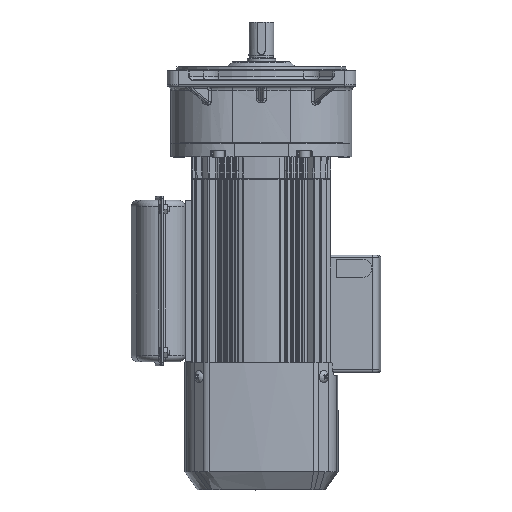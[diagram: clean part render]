
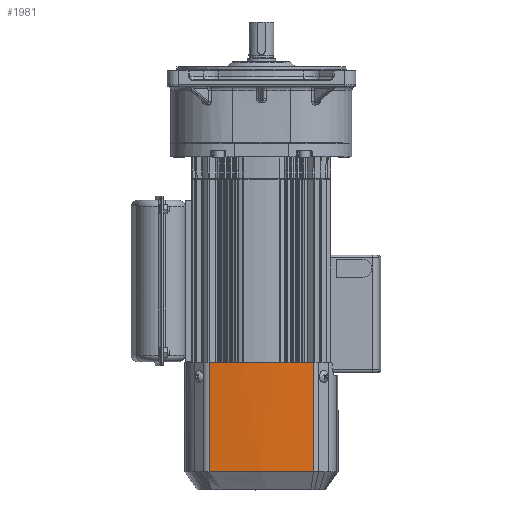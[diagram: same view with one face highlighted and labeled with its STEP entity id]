
A CAD part, top view. The second image highlights one B-rep face of the part: STEP entity #1981.
In plain terms, the highlighted cylindrical face has radius 400.6 mm (diameter 801.2 mm), a partial arc.
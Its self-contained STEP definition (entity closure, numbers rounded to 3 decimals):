
#1981 = ADVANCED_FACE( '', ( #5805 ), #5806, .T. );
#5805 = FACE_OUTER_BOUND( '', #11939, .T. );
#5806 = CYLINDRICAL_SURFACE( '', #11940, 400.6 );
#11939 = EDGE_LOOP( '', ( #26646, #26647, #26648, #26649 ) );
#11940 = AXIS2_PLACEMENT_3D( '', #26650, #26651, #26652 );
#26646 = ORIENTED_EDGE( '', *, *, #43182, .F. );
#26647 = ORIENTED_EDGE( '', *, *, #43183, .F. );
#26648 = ORIENTED_EDGE( '', *, *, #43184, .T. );
#26649 = ORIENTED_EDGE( '', *, *, #43185, .T. );
#26650 = CARTESIAN_POINT( '', ( 87.385, -106.725, -283.31 ) );
#26651 = DIRECTION( '', ( 0., 1., 0. ) );
#26652 = DIRECTION( '', ( 0., 0., -1. ) );
#43182 = EDGE_CURVE( '', #49744, #49745, #49746, .T. );
#43183 = EDGE_CURVE( '', #49747, #49744, #49748, .T. );
#43184 = EDGE_CURVE( '', #49747, #49749, #49750, .T. );
#43185 = EDGE_CURVE( '', #49749, #49745, #49751, .T. );
#49744 = VERTEX_POINT( '', #59506 );
#49745 = VERTEX_POINT( '', #59507 );
#49746 = B_SPLINE_CURVE_WITH_KNOTS( '', 3, ( #59508, #59509, #59510, #59511 ), .UNSPECIFIED., .F., .F., ( 4, 4 ), ( 0., 1. ), .UNSPECIFIED. );
#49747 = VERTEX_POINT( '', #59512 );
#49748 = LINE( '', #59513, #59514 );
#49749 = VERTEX_POINT( '', #59515 );
#49750 = CIRCLE( '', #59516, 400.6 );
#49751 = LINE( '', #59517, #59518 );
#59506 = CARTESIAN_POINT( '', ( 127.477, -190.725, 115.279 ) );
#59507 = CARTESIAN_POINT( '', ( 47.294, -190.725, 115.279 ) );
#59508 = CARTESIAN_POINT( '', ( 127.477, -190.725, 115.279 ) );
#59509 = CARTESIAN_POINT( '', ( 100.838, -190.725, 117.958 ) );
#59510 = CARTESIAN_POINT( '', ( 73.932, -190.725, 117.958 ) );
#59511 = CARTESIAN_POINT( '', ( 47.294, -190.725, 115.279 ) );
#59512 = CARTESIAN_POINT( '', ( 127.477, -106.725, 115.279 ) );
#59513 = CARTESIAN_POINT( '', ( 127.477, -106.725, 115.279 ) );
#59514 = VECTOR( '', #76895, 1000. );
#59515 = CARTESIAN_POINT( '', ( 47.294, -106.725, 115.279 ) );
#59516 = AXIS2_PLACEMENT_3D( '', #76896, #76897, #76898 );
#59517 = CARTESIAN_POINT( '', ( 47.294, -106.725, 115.279 ) );
#59518 = VECTOR( '', #76899, 1000. );
#76895 = DIRECTION( '', ( 0., -1., 0. ) );
#76896 = CARTESIAN_POINT( '', ( 87.385, -106.725, -283.31 ) );
#76897 = DIRECTION( '', ( 0., -1., 0. ) );
#76898 = DIRECTION( '', ( 1., 0., 0. ) );
#76899 = DIRECTION( '', ( 0., -1., 0. ) );
